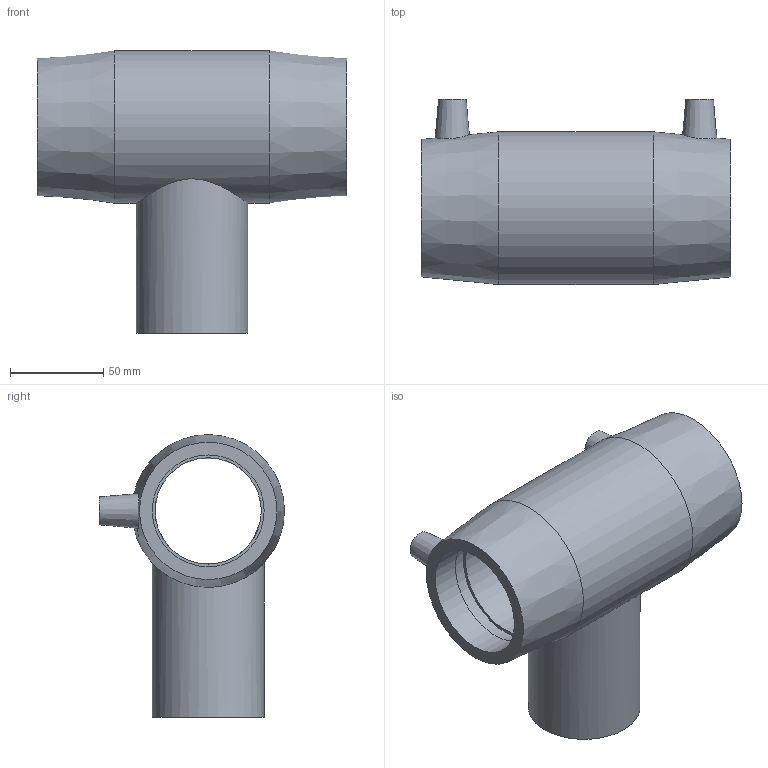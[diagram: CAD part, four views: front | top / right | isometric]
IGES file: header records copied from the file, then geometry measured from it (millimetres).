
Global section: file name: 5904B003020.ipt; native system: Autodesk Inventor 2019; preprocessor: unknown; author: KIM; date: 20210830.100946; units: inch
Bounding box: 166.12 x 99.44 x 152.02 mm (x, y, z)
Volume: 436735.7 mm3; surface area: 103026.7 mm2
Topology: 1 solids, 1 shells, 31 faces, 72 edges, 52 vertices
Faces by surface type: plane 13, revolution 10, cylinder 4, cone 4
Full cylindrical faces by diameter (mm): 4.8 x2, 60.1 x1, 82.042 x1
